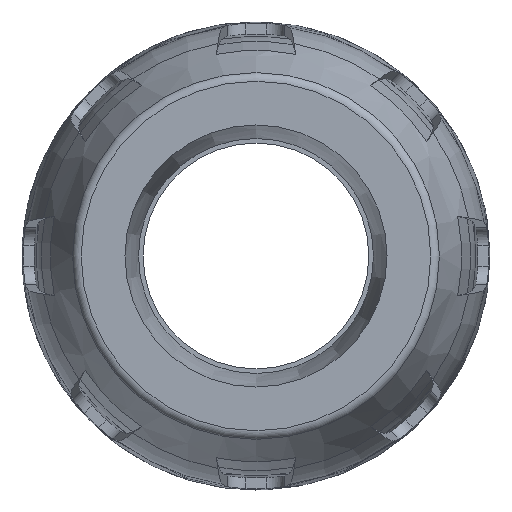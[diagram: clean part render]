
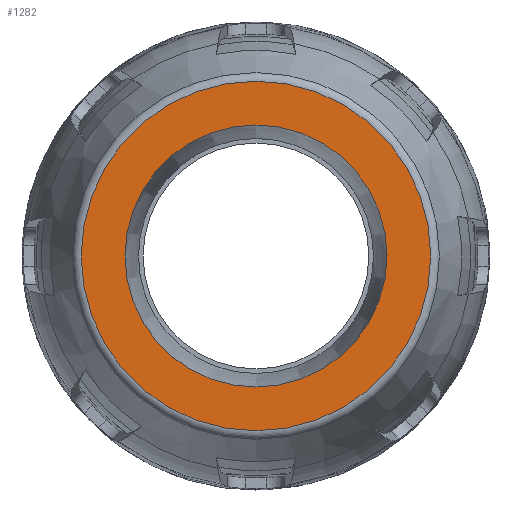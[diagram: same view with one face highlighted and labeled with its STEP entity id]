
A CAD part, left-side view. The second image highlights one B-rep face of the part: STEP entity #1282.
In plain terms, the highlighted planar face has unit normal (-1, 0, 0).
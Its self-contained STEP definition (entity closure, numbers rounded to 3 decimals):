
#1282 = ADVANCED_FACE( '', ( #2736, #2737 ), #2738, .F. );
#2736 = FACE_BOUND( '', #6543, .T. );
#2737 = FACE_OUTER_BOUND( '', #6544, .T. );
#2738 = PLANE( '', #6545 );
#6543 = EDGE_LOOP( '', ( #11229 ) );
#6544 = EDGE_LOOP( '', ( #11230 ) );
#6545 = AXIS2_PLACEMENT_3D( '', #11231, #11232, #11233 );
#11229 = ORIENTED_EDGE( '', *, *, #14114, .F. );
#11230 = ORIENTED_EDGE( '', *, *, #14019, .F. );
#11231 = CARTESIAN_POINT( '', ( -52.78, 0., -19.827 ) );
#11232 = DIRECTION( '', ( 1., 0., 0. ) );
#11233 = DIRECTION( '', ( 0., 0., -1. ) );
#14019 = EDGE_CURVE( '', #16641, #16641, #16642, .F. );
#14114 = EDGE_CURVE( '', #16763, #16763, #16764, .T. );
#16641 = VERTEX_POINT( '', #22144 );
#16642 = CIRCLE( '', #22145, 19.114 );
#16763 = VERTEX_POINT( '', #22532 );
#16764 = CIRCLE( '', #22533, 14.331 );
#22144 = CARTESIAN_POINT( '', ( -52.78, 0., -19.114 ) );
#22145 = AXIS2_PLACEMENT_3D( '', #24969, #24970, #24971 );
#22532 = CARTESIAN_POINT( '', ( -52.78, 0., -14.331 ) );
#22533 = AXIS2_PLACEMENT_3D( '', #25058, #25059, #25060 );
#24969 = CARTESIAN_POINT( '', ( -52.78, 0., 0. ) );
#24970 = DIRECTION( '', ( -1., 0., 0. ) );
#24971 = DIRECTION( '', ( 0., 0., -1. ) );
#25058 = CARTESIAN_POINT( '', ( -52.78, 0., 0. ) );
#25059 = DIRECTION( '', ( -1., 0., 0. ) );
#25060 = DIRECTION( '', ( 0., 0., -1. ) );
